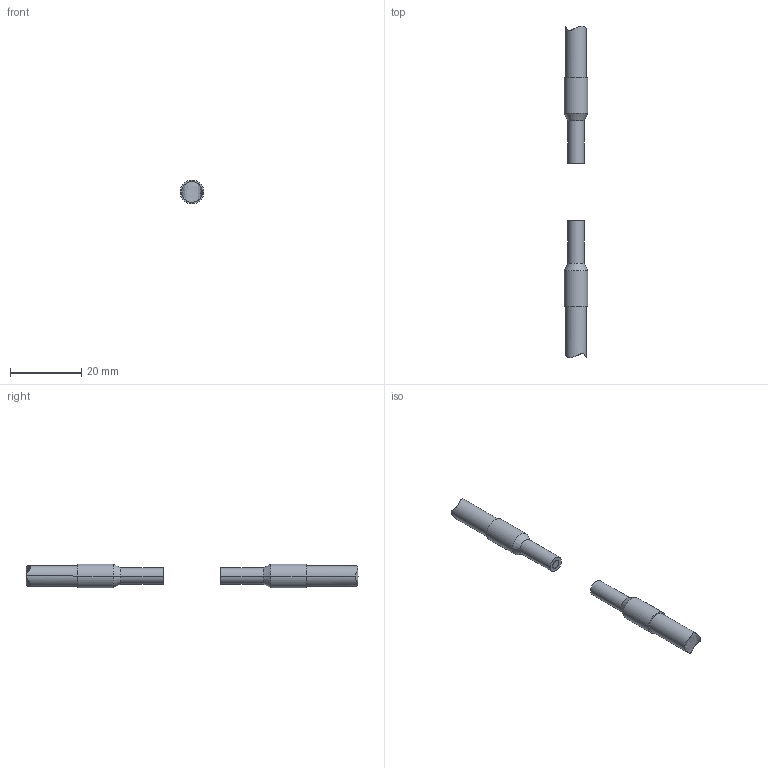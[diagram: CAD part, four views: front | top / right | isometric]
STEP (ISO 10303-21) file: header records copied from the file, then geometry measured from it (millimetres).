
FILE_DESCRIPTION((''),'2;1');
FILE_NAME('0000366127_PRT','2021-03-04T13:16:13',('pdmservice'),(''),'CREO PARAMETRIC BY PTC INC, 2018420','CREO PARAMETRIC BY PTC INC, 2018420','');
FILE_SCHEMA(('AUTOMOTIVE_DESIGN { 1 0 10303 214 1 1 1 1 }'));
Length unit declared in the file: millimetre
Products named in the file (1): 0000366127_PRT
Bounding box: 6.6 x 92.95 x 6.6 mm (x, y, z)
Volume: 1895.2 mm3; surface area: 1445.8 mm2
Topology: 2 solids, 2 shells, 28 faces, 52 edges, 32 vertices
Faces by surface type: cylinder 16, plane 6, cone 4, extrusion 2
Entity records: 2058 total; most frequent: CARTESIAN_POINT 336, DIRECTION 130, PROPERTY_DEFINITION 122, REPRESENTATION 121, PROPERTY_DEFINITION_REPRESENTATION 121, DESCRIPTIVE_REPRESENTATION_ITEM 109, ORIENTED_EDGE 104, GENERAL_PROPERTY 104
